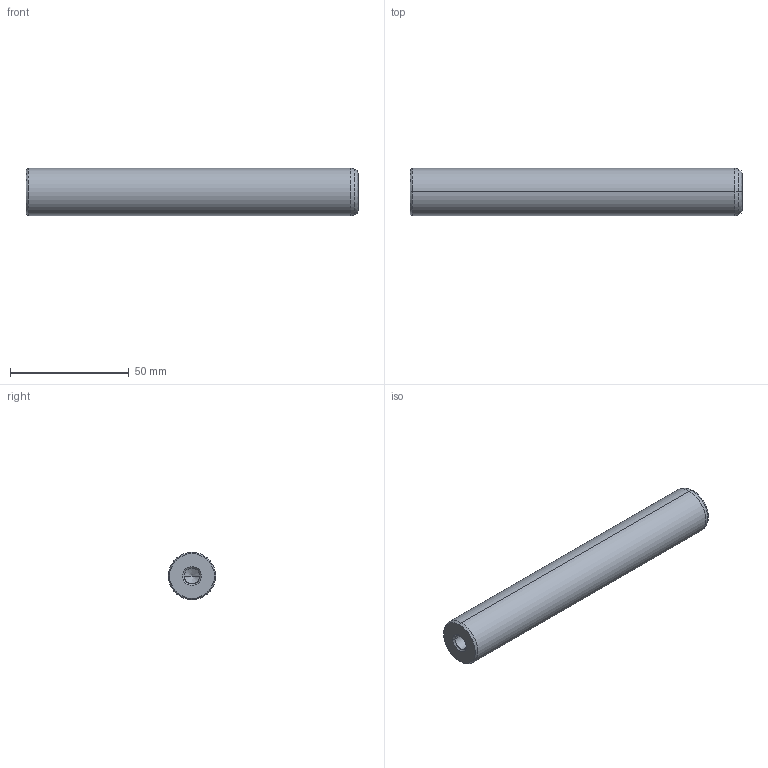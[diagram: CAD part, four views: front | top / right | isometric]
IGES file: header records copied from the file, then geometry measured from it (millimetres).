
Start section: START RECORD GO HERE.
Global section: file name: 720-20x140.igs; native system: DASSAULT SYSTEMES CATIA V5 R20 - www.3ds.com; preprocessor: CATIA Version 5 Release 20 ; author: Utente; organization: NB04-ASUS; date: 20210101.140057; units: millimetre
Bounding box: 140 x 20 x 20 mm (x, y, z)
Surface area: 10318 mm2 (no closed solid volume)
Topology: 0 solids, 0 shells, 22 faces, 120 edges, 116 vertices
Faces by surface type: revolution 20, plane 2
